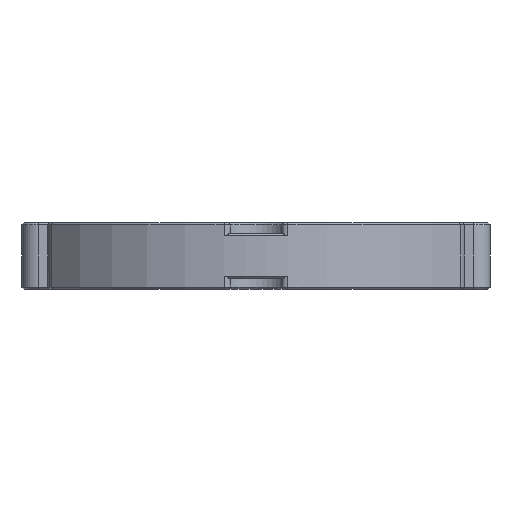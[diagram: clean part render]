
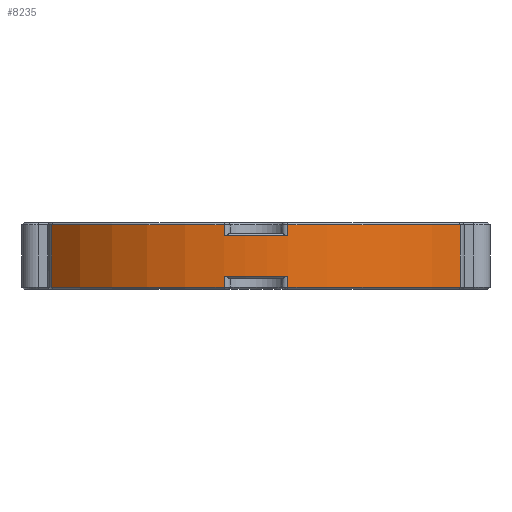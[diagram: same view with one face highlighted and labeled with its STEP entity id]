
A CAD part, front view. The second image highlights one B-rep face of the part: STEP entity #8235.
In plain terms, the highlighted cylindrical face has radius 24 mm (diameter 48 mm), a partial arc.
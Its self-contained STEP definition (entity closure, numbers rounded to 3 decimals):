
#41 = CARTESIAN_POINT ( 'NONE',  ( 2.864, -23.828, -2.8 ) ) ;
#160 = AXIS2_PLACEMENT_3D ( 'NONE', #7406, #8669, #12994 ) ;
#241 = CARTESIAN_POINT ( 'NONE',  ( -2.864, -23.828, -3. ) ) ;
#547 = ORIENTED_EDGE ( 'NONE', *, *, #1926, .T. ) ;
#578 = CARTESIAN_POINT ( 'NONE',  ( 2.864, -23.828, -3. ) ) ;
#596 = VECTOR ( 'NONE', #6674, 1000. ) ;
#722 = VERTEX_POINT ( 'NONE', #5553 ) ;
#1010 = DIRECTION ( 'NONE',  ( 0., 0., 1. ) ) ;
#1390 = CARTESIAN_POINT ( 'NONE',  ( -2.864, -23.828, -2.8 ) ) ;
#1524 = CIRCLE ( 'NONE', #160, 24. ) ;
#1689 = ORIENTED_EDGE ( 'NONE', *, *, #5176, .T. ) ;
#1892 = FACE_OUTER_BOUND ( 'NONE', #13133, .T. ) ;
#1926 = EDGE_CURVE ( 'NONE', #10556, #722, #9683, .T. ) ;
#2038 = CYLINDRICAL_SURFACE ( 'NONE', #2375, 24. ) ;
#2221 = VERTEX_POINT ( 'NONE', #4787 ) ;
#2375 = AXIS2_PLACEMENT_3D ( 'NONE', #13787, #12796, #5162 ) ;
#2575 = DIRECTION ( 'NONE',  ( 0., 0., -1. ) ) ;
#2608 = CARTESIAN_POINT ( 'NONE',  ( -2.864, -23.828, -3. ) ) ;
#2617 = ORIENTED_EDGE ( 'NONE', *, *, #11708, .T. ) ;
#2633 = AXIS2_PLACEMENT_3D ( 'NONE', #8585, #5273, #11710 ) ;
#2761 = CARTESIAN_POINT ( 'NONE',  ( -18.352, -15.467, -3. ) ) ;
#2863 = CIRCLE ( 'NONE', #4449, 24. ) ;
#2918 = ORIENTED_EDGE ( 'NONE', *, *, #11801, .T. ) ;
#3341 = VERTEX_POINT ( 'NONE', #41 ) ;
#3548 = CIRCLE ( 'NONE', #2633, 24. ) ;
#3611 = DIRECTION ( 'NONE',  ( 0., 0., -1. ) ) ;
#3658 = ORIENTED_EDGE ( 'NONE', *, *, #10867, .T. ) ;
#3798 = EDGE_CURVE ( 'NONE', #13489, #3341, #13263, .T. ) ;
#4101 = ORIENTED_EDGE ( 'NONE', *, *, #10886, .T. ) ;
#4126 = CARTESIAN_POINT ( 'NONE',  ( 0., 0., 1.8 ) ) ;
#4372 = VECTOR ( 'NONE', #6646, 1000. ) ;
#4449 = AXIS2_PLACEMENT_3D ( 'NONE', #12979, #1010, #5422 ) ;
#4787 = CARTESIAN_POINT ( 'NONE',  ( -18.352, -15.467, -2.8 ) ) ;
#4924 = VECTOR ( 'NONE', #5575, 1000. ) ;
#5091 = CIRCLE ( 'NONE', #7113, 24. ) ;
#5162 = DIRECTION ( 'NONE',  ( 1., 0., 0. ) ) ;
#5176 = EDGE_CURVE ( 'NONE', #9328, #8380, #12012, .T. ) ;
#5273 = DIRECTION ( 'NONE',  ( 0., 0., -1. ) ) ;
#5422 = DIRECTION ( 'NONE',  ( 1., 0., 0. ) ) ;
#5553 = CARTESIAN_POINT ( 'NONE',  ( 18.352, -15.467, 2.8 ) ) ;
#5575 = DIRECTION ( 'NONE',  ( 0., 0., 1. ) ) ;
#5589 = VERTEX_POINT ( 'NONE', #9521 ) ;
#5814 = CARTESIAN_POINT ( 'NONE',  ( -2.864, -23.828, 2.8 ) ) ;
#6564 = CARTESIAN_POINT ( 'NONE',  ( -2.864, -23.828, 1.8 ) ) ;
#6583 = VERTEX_POINT ( 'NONE', #5814 ) ;
#6646 = DIRECTION ( 'NONE',  ( 0., 0., -1. ) ) ;
#6674 = DIRECTION ( 'NONE',  ( 0., 0., -1. ) ) ;
#6802 = EDGE_CURVE ( 'NONE', #5589, #9328, #12027, .T. ) ;
#6824 = LINE ( 'NONE', #241, #4924 ) ;
#7113 = AXIS2_PLACEMENT_3D ( 'NONE', #7137, #3611, #13508 ) ;
#7137 = CARTESIAN_POINT ( 'NONE',  ( 0., 0., 2.8 ) ) ;
#7154 = CARTESIAN_POINT ( 'NONE',  ( -18.352, -15.467, 2.8 ) ) ;
#7403 = CARTESIAN_POINT ( 'NONE',  ( 18.352, -15.467, -2.8 ) ) ;
#7406 = CARTESIAN_POINT ( 'NONE',  ( 0., 0., -1.8 ) ) ;
#7409 = VECTOR ( 'NONE', #11886, 1000. ) ;
#7525 = CARTESIAN_POINT ( 'NONE',  ( 2.864, -23.828, 1.8 ) ) ;
#7565 = CARTESIAN_POINT ( 'NONE',  ( 18.352, -15.467, -3. ) ) ;
#7721 = VECTOR ( 'NONE', #2575, 1000. ) ;
#7797 = VERTEX_POINT ( 'NONE', #7154 ) ;
#8154 = EDGE_CURVE ( 'NONE', #6583, #7797, #5091, .T. ) ;
#8210 = ORIENTED_EDGE ( 'NONE', *, *, #10924, .T. ) ;
#8233 = DIRECTION ( 'NONE',  ( 0., 0., 1. ) ) ;
#8235 = ADVANCED_FACE ( 'NONE', ( #1892 ), #2038, .T. ) ;
#8338 = ORIENTED_EDGE ( 'NONE', *, *, #13426, .T. ) ;
#8380 = VERTEX_POINT ( 'NONE', #6564 ) ;
#8585 = CARTESIAN_POINT ( 'NONE',  ( 0., 0., 2.8 ) ) ;
#8669 = DIRECTION ( 'NONE',  ( 0., 0., 1. ) ) ;
#8954 = VERTEX_POINT ( 'NONE', #1390 ) ;
#9285 = CARTESIAN_POINT ( 'NONE',  ( 0., 0., -2.8 ) ) ;
#9328 = VERTEX_POINT ( 'NONE', #7525 ) ;
#9521 = CARTESIAN_POINT ( 'NONE',  ( 2.864, -23.828, 2.8 ) ) ;
#9683 = LINE ( 'NONE', #7565, #7409 ) ;
#9898 = LINE ( 'NONE', #2608, #11095 ) ;
#9962 = DIRECTION ( 'NONE',  ( 0., 0., 1. ) ) ;
#10548 = DIRECTION ( 'NONE',  ( 1., 0., 0. ) ) ;
#10556 = VERTEX_POINT ( 'NONE', #7403 ) ;
#10649 = AXIS2_PLACEMENT_3D ( 'NONE', #4126, #11617, #10548 ) ;
#10729 = ORIENTED_EDGE ( 'NONE', *, *, #3798, .T. ) ;
#10867 = EDGE_CURVE ( 'NONE', #2221, #8954, #11908, .T. ) ;
#10886 = EDGE_CURVE ( 'NONE', #722, #5589, #3548, .T. ) ;
#10924 = EDGE_CURVE ( 'NONE', #3341, #10556, #2863, .T. ) ;
#11081 = EDGE_CURVE ( 'NONE', #7797, #2221, #12456, .T. ) ;
#11095 = VECTOR ( 'NONE', #9962, 1000. ) ;
#11617 = DIRECTION ( 'NONE',  ( 0., 0., -1. ) ) ;
#11660 = ORIENTED_EDGE ( 'NONE', *, *, #11081, .T. ) ;
#11708 = EDGE_CURVE ( 'NONE', #12028, #13489, #1524, .T. ) ;
#11710 = DIRECTION ( 'NONE',  ( 1., 0., 0. ) ) ;
#11801 = EDGE_CURVE ( 'NONE', #8954, #12028, #6824, .T. ) ;
#11857 = ORIENTED_EDGE ( 'NONE', *, *, #6802, .T. ) ;
#11886 = DIRECTION ( 'NONE',  ( 0., 0., 1. ) ) ;
#11908 = CIRCLE ( 'NONE', #12805, 24. ) ;
#12012 = CIRCLE ( 'NONE', #10649, 24. ) ;
#12027 = LINE ( 'NONE', #12952, #4372 ) ;
#12028 = VERTEX_POINT ( 'NONE', #13555 ) ;
#12456 = LINE ( 'NONE', #2761, #596 ) ;
#12796 = DIRECTION ( 'NONE',  ( 0., 0., 1. ) ) ;
#12805 = AXIS2_PLACEMENT_3D ( 'NONE', #9285, #8233, #13973 ) ;
#12952 = CARTESIAN_POINT ( 'NONE',  ( 2.864, -23.828, -3. ) ) ;
#12979 = CARTESIAN_POINT ( 'NONE',  ( 0., 0., -2.8 ) ) ;
#12994 = DIRECTION ( 'NONE',  ( 1., 0., 0. ) ) ;
#13006 = ORIENTED_EDGE ( 'NONE', *, *, #8154, .T. ) ;
#13094 = CARTESIAN_POINT ( 'NONE',  ( 2.864, -23.828, -1.8 ) ) ;
#13133 = EDGE_LOOP ( 'NONE', ( #10729, #8210, #547, #4101, #11857, #1689, #8338, #13006, #11660, #3658, #2918, #2617 ) ) ;
#13263 = LINE ( 'NONE', #578, #7721 ) ;
#13426 = EDGE_CURVE ( 'NONE', #8380, #6583, #9898, .T. ) ;
#13489 = VERTEX_POINT ( 'NONE', #13094 ) ;
#13508 = DIRECTION ( 'NONE',  ( 1., 0., 0. ) ) ;
#13555 = CARTESIAN_POINT ( 'NONE',  ( -2.864, -23.828, -1.8 ) ) ;
#13787 = CARTESIAN_POINT ( 'NONE',  ( 0., 0., -3. ) ) ;
#13973 = DIRECTION ( 'NONE',  ( 1., 0., 0. ) ) ;
